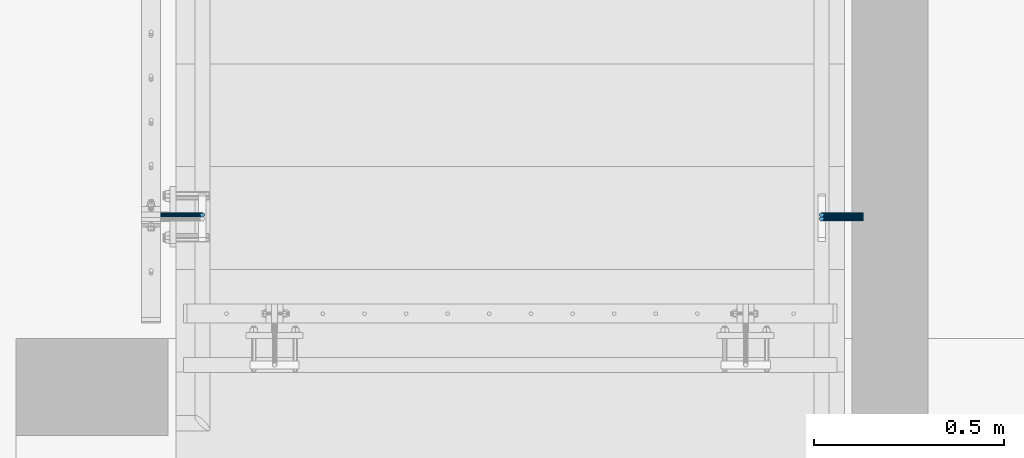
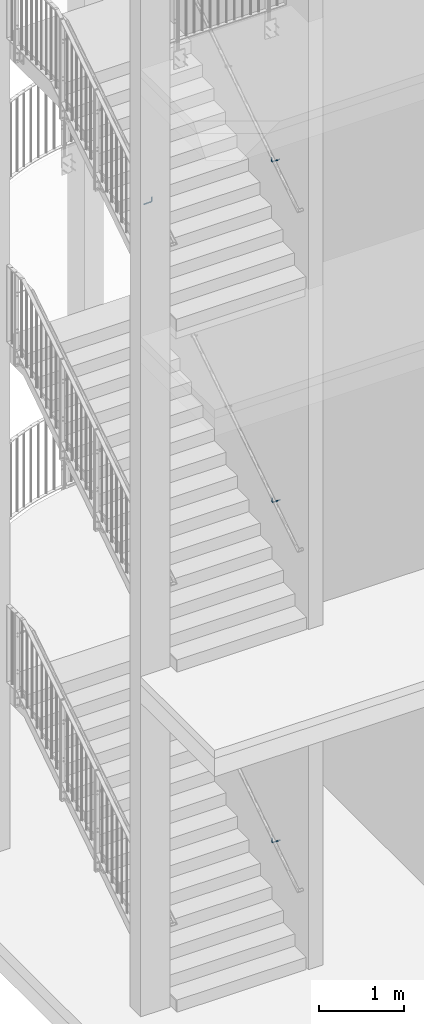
# One storey, part 129 of 296: 4 beams.
"""IFC2X3 building model written with IfcOpenShell, lengths in millimetres."""

from ifc_helpers import new_model, entity, si_unit, converted_unit, origin_with_axes, place, context, project, spatial, faceted_brep, material, element, save


model = new_model("IFC2X3")

# Units and contexts
model_context = context("Model", 3, precision=1e-09, world=origin_with_axes())
ifc_project = project(units=[si_unit("LENGTHUNIT", "METRE", prefix="MILLI"), si_unit("AREAUNIT", "SQUARE_METRE"), si_unit("VOLUMEUNIT", "CUBIC_METRE"), converted_unit("PLANEANGLEUNIT", "DEGREE", entity("IfcPlaneAngleMeasure", 0.01745329), si_unit("PLANEANGLEUNIT", "RADIAN"), dimensions=[0, 0, 0, 0, 0, 0, 0])], contexts=[model_context])

# Site, building, storey
site_placement = place(None, origin_with_axes())
site = spatial("IfcSite", under=ifc_project, at=site_placement, Name="TZD-S?d | Treppenhausgel?nder", CompositionType="ELEMENT")
building_placement = place(site_placement, origin_with_axes())
building = spatial("IfcBuilding", under=site, at=building_placement, Name="Struktur 1", CompositionType="ELEMENT")
storey_placement = place(building_placement, origin_with_axes())
storey = spatial("IfcBuildingStorey", under=building, at=storey_placement, Name="Default Storey", CompositionType="ELEMENT", Elevation=0.0)

# Beams
ifc_material = material(Name="S235JR")
beam_1_placement = place(None, origin_with_axes())
element("IfcBeam", 1, at=beam_1_placement, inside=storey, material=ifc_material, Name="-", ObjectType="-", context=model_context, shape_type="Brep", body=[
    faceted_brep([(1716.893587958, -3454.998155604, 6385.998562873), (1723.106412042, -3454.998155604, 6385.998562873), (1722.296100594, -3454.456722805, 6385.998562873), (1720.0, -3454.0, 6385.998562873), (1717.703899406, -3454.456722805, 6385.998562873), (1715.757359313, -3464.242640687, 6380.033503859), (1714.456722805, -3462.296100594, 6381.289520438), (1714.456722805, -3462.296100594, 6340.998562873), (1715.757359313, -3464.242640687, 6340.998562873), (1717.703899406, -3465.543277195, 6379.194260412), (1717.703899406, -3465.543277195, 6340.998562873), (1720.0, -3466.0, 6378.899557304), (1720.0, -3466.0, 6340.998562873), (1722.296100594, -3465.543277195, 6379.194260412), (1722.296100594, -3465.543277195, 6340.998562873), (1724.242640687, -3464.242640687, 6380.033503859), (1724.242640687, -3464.242640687, 6340.998562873), (1725.543277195, -3462.296100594, 6381.289520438), (1725.543277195, -3462.296100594, 6340.998562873), (1726.0, -3460.0, 6382.771093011), (1726.0, -3460.0, 6340.998562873), (1725.543277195, -3457.703899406, 6384.252665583), (1725.543277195, -3457.703899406, 6340.998562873), (1724.242640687, -3455.757359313, 6385.508682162), (1724.242640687, -3455.757359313, 6340.998562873), (1722.296100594, -3454.456722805, 6340.998562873), (1720.0, -3454.0, 6340.998562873), (1717.703899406, -3454.456722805, 6340.998562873), (1715.757359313, -3455.757359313, 6385.508682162), (1715.757359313, -3455.757359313, 6340.998562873), (1714.456722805, -3457.703899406, 6384.252665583), (1714.456722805, -3457.703899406, 6340.998562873), (1714.0, -3460.0, 6382.771093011), (1714.0, -3460.0, 6340.998562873), (1830.0, -3464.242640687, 6316.755922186), (1830.0, -3462.296100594, 6315.455285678), (1830.0, -3460.0, 6314.998562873), (1830.0, -3457.703899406, 6315.455285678), (1830.0, -3455.757359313, 6316.755922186), (1830.0, -3454.456722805, 6318.702462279), (1830.0, -3454.0, 6320.998562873), (1830.0, -3454.456722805, 6323.294663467), (1830.0, -3455.757359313, 6325.24120356), (1830.0, -3457.703899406, 6326.541840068), (1830.0, -3460.0, 6326.998562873), (1830.0, -3462.296100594, 6326.541840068), (1830.0, -3464.242640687, 6325.24120356), (1830.0, -3465.543277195, 6323.294663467), (1830.0, -3466.0, 6320.998562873), (1830.0, -3465.543277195, 6318.702462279), (1716.401089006, -3462.296100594, 6331.223573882), (1717.602720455, -3464.242640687, 6331.721305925), (1719.401089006, -3465.543277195, 6332.466214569), (1721.52240935, -3466.0, 6333.344894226), (1723.643729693, -3465.543277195, 6334.223573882), (1725.442098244, -3464.242640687, 6334.968482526), (1726.643729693, -3462.296100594, 6335.466214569), (1727.065686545, -3460.0, 6335.64099482), (1726.643729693, -3457.703899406, 6335.466214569), (1725.442098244, -3455.757359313, 6334.968482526), (1723.643729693, -3454.456722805, 6334.223573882), (1721.52240935, -3454.0, 6333.344894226), (1719.401089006, -3454.456722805, 6332.466214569), (1717.602720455, -3455.757359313, 6331.721305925), (1716.401089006, -3457.703899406, 6331.223573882), (1715.979132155, -3460.0, 6331.048793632), (1721.938175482, -3462.296100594, 6322.936738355), (1722.857864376, -3464.242640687, 6323.856427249), (1724.234276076, -3465.543277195, 6325.232838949), (1725.857864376, -3466.0, 6326.856427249), (1727.481452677, -3465.543277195, 6328.48001555), (1728.857864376, -3464.242640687, 6329.856427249), (1729.777553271, -3462.296100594, 6330.776116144), (1730.100505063, -3460.0, 6331.099067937), (1729.777553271, -3457.703899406, 6330.776116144), (1728.857864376, -3455.757359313, 6329.856427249), (1727.481452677, -3454.456722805, 6328.48001555), (1725.857864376, -3454.0, 6326.856427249), (1724.234276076, -3454.456722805, 6325.232838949), (1722.857864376, -3455.757359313, 6323.856427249), (1721.938175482, -3457.703899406, 6322.936738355), (1721.615223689, -3460.0, 6322.613786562), (1730.225011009, -3462.296100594, 6317.399651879), (1730.722743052, -3464.242640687, 6318.601283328), (1731.467651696, -3465.543277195, 6320.399651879), (1732.346331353, -3466.0, 6322.520972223), (1733.225011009, -3465.543277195, 6324.642292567), (1733.969919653, -3464.242640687, 6326.440661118), (1734.467651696, -3462.296100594, 6327.642292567), (1734.642431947, -3460.0, 6328.064249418), (1734.467651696, -3457.703899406, 6327.642292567), (1733.969919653, -3455.757359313, 6326.440661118), (1733.225011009, -3454.456722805, 6324.642292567), (1732.346331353, -3454.0, 6322.520972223), (1731.467651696, -3454.456722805, 6320.399651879), (1730.722743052, -3455.757359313, 6318.601283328), (1730.225011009, -3457.703899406, 6317.399651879), (1730.050230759, -3460.0, 6316.977695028), (1740.0, -3462.296100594, 6315.455285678), (1740.0, -3464.242640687, 6316.755922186), (1740.0, -3465.543277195, 6318.702462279), (1740.0, -3466.0, 6320.998562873), (1740.0, -3465.543277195, 6323.294663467), (1740.0, -3464.242640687, 6325.24120356), (1740.0, -3462.296100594, 6326.541840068), (1740.0, -3460.0, 6326.998562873), (1740.0, -3457.703899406, 6326.541840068), (1740.0, -3455.757359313, 6325.24120356), (1740.0, -3454.456722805, 6323.294663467), (1740.0, -3454.0, 6320.998562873), (1740.0, -3454.456722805, 6318.702462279), (1740.0, -3455.757359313, 6316.755922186), (1740.0, -3457.703899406, 6315.455285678), (1740.0, -3460.0, 6314.998562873)], [[[0, 1, 2, 3, 4]], [[5, 6, 7, 8]], [[9, 5, 8, 10]], [[11, 9, 10, 12]], [[13, 11, 12, 14]], [[15, 13, 14, 16]], [[17, 15, 16, 18]], [[19, 17, 18, 20]], [[21, 19, 20, 22]], [[23, 21, 22, 24]], [[1, 23, 24, 25, 2]], [[3, 2, 25, 26]], [[4, 3, 26, 27]], [[28, 0, 4, 27, 29]], [[30, 28, 29, 31]], [[32, 30, 31, 33]], [[6, 32, 33, 7]], [[17, 19, 21, 23, 1, 0, 28, 30, 32, 6, 5, 9, 11, 13, 15]], [[34, 35, 36, 37, 38, 39, 40, 41, 42, 43, 44, 45, 46, 47, 48, 49]], [[8, 7, 50, 51]], [[10, 8, 51, 52]], [[12, 10, 52, 53]], [[14, 12, 53, 54]], [[16, 14, 54, 55]], [[18, 16, 55, 56]], [[20, 18, 56, 57]], [[22, 20, 57, 58]], [[24, 22, 58, 59]], [[25, 24, 59, 60]], [[26, 25, 60, 61]], [[27, 26, 61, 62]], [[29, 27, 62, 63]], [[31, 29, 63, 64]], [[33, 31, 64, 65]], [[7, 33, 65, 50]], [[51, 50, 66, 67]], [[52, 51, 67, 68]], [[53, 52, 68, 69]], [[54, 53, 69, 70]], [[55, 54, 70, 71]], [[56, 55, 71, 72]], [[57, 56, 72, 73]], [[58, 57, 73, 74]], [[59, 58, 74, 75]], [[60, 59, 75, 76]], [[61, 60, 76, 77]], [[62, 61, 77, 78]], [[63, 62, 78, 79]], [[64, 63, 79, 80]], [[65, 64, 80, 81]], [[50, 65, 81, 66]], [[67, 66, 82, 83]], [[68, 67, 83, 84]], [[69, 68, 84, 85]], [[70, 69, 85, 86]], [[71, 70, 86, 87]], [[72, 71, 87, 88]], [[73, 72, 88, 89]], [[74, 73, 89, 90]], [[75, 74, 90, 91]], [[76, 75, 91, 92]], [[77, 76, 92, 93]], [[78, 77, 93, 94]], [[79, 78, 94, 95]], [[80, 79, 95, 96]], [[81, 80, 96, 97]], [[66, 81, 97, 82]], [[83, 82, 98, 99]], [[84, 83, 99, 100]], [[85, 84, 100, 101]], [[86, 85, 101, 102]], [[87, 86, 102, 103]], [[88, 87, 103, 104]], [[89, 88, 104, 105]], [[90, 89, 105, 106]], [[91, 90, 106, 107]], [[92, 91, 107, 108]], [[93, 92, 108, 109]], [[94, 93, 109, 110]], [[95, 94, 110, 111]], [[96, 95, 111, 112]], [[97, 96, 112, 113]], [[82, 97, 113, 98]], [[99, 98, 35, 34]], [[100, 99, 34, 49]], [[101, 100, 49, 48]], [[102, 101, 48, 47]], [[103, 102, 47, 46]], [[104, 103, 46, 45]], [[105, 104, 45, 44]], [[106, 105, 44, 43]], [[107, 106, 43, 42]], [[108, 107, 42, 41]], [[109, 108, 41, 40]], [[110, 109, 40, 39]], [[111, 110, 39, 38]], [[112, 111, 38, 37]], [[113, 112, 37, 36]], [[98, 113, 36, 35]]]),
])
beam_2_placement = place(None, origin_with_axes())
element("IfcBeam", 2, at=beam_2_placement, inside=storey, material=ifc_material, Name="-", ObjectType="-", context=model_context, shape_type="Brep", body=[
    faceted_brep([(1716.893577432, -3454.998162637, 1485.782661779), (1723.106422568, -3454.998162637, 1485.782661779), (1722.296100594, -3454.456722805, 1485.782661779), (1720.0, -3454.0, 1485.782661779), (1717.703899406, -3454.456722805, 1485.782661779), (1715.757359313, -3464.242640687, 1479.785190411), (1714.456722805, -3462.296100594, 1481.048032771), (1714.456722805, -3462.296100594, 1440.782661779), (1715.757359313, -3464.242640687, 1440.782661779), (1717.703899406, -3465.543277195, 1478.941386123), (1717.703899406, -3465.543277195, 1440.782661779), (1720.0, -3466.0, 1478.645081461), (1720.0, -3466.0, 1440.782661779), (1722.296100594, -3465.543277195, 1478.941386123), (1722.296100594, -3465.543277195, 1440.782661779), (1724.242640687, -3464.242640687, 1479.785190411), (1724.242640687, -3464.242640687, 1440.782661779), (1725.543277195, -3462.296100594, 1481.048032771), (1725.543277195, -3462.296100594, 1440.782661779), (1726.0, -3460.0, 1482.537656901), (1726.0, -3460.0, 1440.782661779), (1725.543277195, -3457.703899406, 1484.02728103), (1725.543277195, -3457.703899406, 1440.782661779), (1724.242640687, -3455.757359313, 1485.29012339), (1724.242640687, -3455.757359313, 1440.782661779), (1722.296100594, -3454.456722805, 1440.782661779), (1720.0, -3454.0, 1440.782661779), (1717.703899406, -3454.456722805, 1440.782661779), (1715.757359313, -3455.757359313, 1485.29012339), (1715.757359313, -3455.757359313, 1440.782661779), (1714.456722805, -3457.703899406, 1484.02728103), (1714.456722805, -3457.703899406, 1440.782661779), (1714.0, -3460.0, 1482.537656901), (1714.0, -3460.0, 1440.782661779), (1830.0, -3464.242640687, 1416.540021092), (1830.0, -3462.296100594, 1415.239384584), (1830.0, -3460.0, 1414.782661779), (1830.0, -3457.703899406, 1415.239384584), (1830.0, -3455.757359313, 1416.540021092), (1830.0, -3454.456722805, 1418.486561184), (1830.0, -3454.0, 1420.782661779), (1830.0, -3454.456722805, 1423.078762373), (1830.0, -3455.757359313, 1425.025302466), (1830.0, -3457.703899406, 1426.325938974), (1830.0, -3460.0, 1426.782661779), (1830.0, -3462.296100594, 1426.325938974), (1830.0, -3464.242640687, 1425.025302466), (1830.0, -3465.543277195, 1423.078762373), (1830.0, -3466.0, 1420.782661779), (1830.0, -3465.543277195, 1418.486561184), (1716.401089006, -3462.296100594, 1431.007672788), (1717.602720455, -3464.242640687, 1431.505404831), (1719.401089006, -3465.543277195, 1432.250313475), (1721.52240935, -3466.0, 1433.128993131), (1723.643729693, -3465.543277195, 1434.007672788), (1725.442098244, -3464.242640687, 1434.752581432), (1726.643729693, -3462.296100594, 1435.250313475), (1727.065686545, -3460.0, 1435.425093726), (1726.643729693, -3457.703899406, 1435.250313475), (1725.442098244, -3455.757359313, 1434.752581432), (1723.643729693, -3454.456722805, 1434.007672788), (1721.52240935, -3454.0, 1433.128993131), (1719.401089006, -3454.456722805, 1432.250313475), (1717.602720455, -3455.757359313, 1431.505404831), (1716.401089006, -3457.703899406, 1431.007672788), (1715.979132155, -3460.0, 1430.832892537), (1721.938175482, -3462.296100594, 1422.72083726), (1722.857864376, -3464.242640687, 1423.640526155), (1724.234276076, -3465.543277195, 1425.016937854), (1725.857864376, -3466.0, 1426.640526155), (1727.481452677, -3465.543277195, 1428.264114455), (1728.857864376, -3464.242640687, 1429.640526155), (1729.777553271, -3462.296100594, 1430.56021505), (1730.100505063, -3460.0, 1430.883166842), (1729.777553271, -3457.703899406, 1430.56021505), (1728.857864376, -3455.757359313, 1429.640526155), (1727.481452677, -3454.456722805, 1428.264114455), (1725.857864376, -3454.0, 1426.640526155), (1724.234276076, -3454.456722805, 1425.016937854), (1722.857864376, -3455.757359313, 1423.640526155), (1721.938175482, -3457.703899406, 1422.72083726), (1721.615223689, -3460.0, 1422.397885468), (1730.225011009, -3462.296100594, 1417.183750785), (1730.722743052, -3464.242640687, 1418.385382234), (1731.467651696, -3465.543277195, 1420.183750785), (1732.346331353, -3466.0, 1422.305071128), (1733.225011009, -3465.543277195, 1424.426391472), (1733.969919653, -3464.242640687, 1426.224760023), (1734.467651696, -3462.296100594, 1427.426391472), (1734.642431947, -3460.0, 1427.848348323), (1734.467651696, -3457.703899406, 1427.426391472), (1733.969919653, -3455.757359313, 1426.224760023), (1733.225011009, -3454.456722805, 1424.426391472), (1732.346331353, -3454.0, 1422.305071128), (1731.467651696, -3454.456722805, 1420.183750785), (1730.722743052, -3455.757359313, 1418.385382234), (1730.225011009, -3457.703899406, 1417.183750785), (1730.050230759, -3460.0, 1416.761793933), (1740.0, -3462.296100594, 1415.239384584), (1740.0, -3464.242640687, 1416.540021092), (1740.0, -3465.543277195, 1418.486561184), (1740.0, -3466.0, 1420.782661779), (1740.0, -3465.543277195, 1423.078762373), (1740.0, -3464.242640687, 1425.025302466), (1740.0, -3462.296100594, 1426.325938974), (1740.0, -3460.0, 1426.782661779), (1740.0, -3457.703899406, 1426.325938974), (1740.0, -3455.757359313, 1425.025302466), (1740.0, -3454.456722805, 1423.078762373), (1740.0, -3454.0, 1420.782661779), (1740.0, -3454.456722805, 1418.486561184), (1740.0, -3455.757359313, 1416.540021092), (1740.0, -3457.703899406, 1415.239384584), (1740.0, -3460.0, 1414.782661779)], [[[0, 1, 2, 3, 4]], [[5, 6, 7, 8]], [[9, 5, 8, 10]], [[11, 9, 10, 12]], [[13, 11, 12, 14]], [[15, 13, 14, 16]], [[17, 15, 16, 18]], [[19, 17, 18, 20]], [[21, 19, 20, 22]], [[23, 21, 22, 24]], [[1, 23, 24, 25, 2]], [[3, 2, 25, 26]], [[4, 3, 26, 27]], [[28, 0, 4, 27, 29]], [[30, 28, 29, 31]], [[32, 30, 31, 33]], [[6, 32, 33, 7]], [[17, 19, 21, 23, 1, 0, 28, 30, 32, 6, 5, 9, 11, 13, 15]], [[34, 35, 36, 37, 38, 39, 40, 41, 42, 43, 44, 45, 46, 47, 48, 49]], [[8, 7, 50, 51]], [[10, 8, 51, 52]], [[12, 10, 52, 53]], [[14, 12, 53, 54]], [[16, 14, 54, 55]], [[18, 16, 55, 56]], [[20, 18, 56, 57]], [[22, 20, 57, 58]], [[24, 22, 58, 59]], [[25, 24, 59, 60]], [[26, 25, 60, 61]], [[27, 26, 61, 62]], [[29, 27, 62, 63]], [[31, 29, 63, 64]], [[33, 31, 64, 65]], [[7, 33, 65, 50]], [[51, 50, 66, 67]], [[52, 51, 67, 68]], [[53, 52, 68, 69]], [[54, 53, 69, 70]], [[55, 54, 70, 71]], [[56, 55, 71, 72]], [[57, 56, 72, 73]], [[58, 57, 73, 74]], [[59, 58, 74, 75]], [[60, 59, 75, 76]], [[61, 60, 76, 77]], [[62, 61, 77, 78]], [[63, 62, 78, 79]], [[64, 63, 79, 80]], [[65, 64, 80, 81]], [[50, 65, 81, 66]], [[67, 66, 82, 83]], [[68, 67, 83, 84]], [[69, 68, 84, 85]], [[70, 69, 85, 86]], [[71, 70, 86, 87]], [[72, 71, 87, 88]], [[73, 72, 88, 89]], [[74, 73, 89, 90]], [[75, 74, 90, 91]], [[76, 75, 91, 92]], [[77, 76, 92, 93]], [[78, 77, 93, 94]], [[79, 78, 94, 95]], [[80, 79, 95, 96]], [[81, 80, 96, 97]], [[66, 81, 97, 82]], [[83, 82, 98, 99]], [[84, 83, 99, 100]], [[85, 84, 100, 101]], [[86, 85, 101, 102]], [[87, 86, 102, 103]], [[88, 87, 103, 104]], [[89, 88, 104, 105]], [[90, 89, 105, 106]], [[91, 90, 106, 107]], [[92, 91, 107, 108]], [[93, 92, 108, 109]], [[94, 93, 109, 110]], [[95, 94, 110, 111]], [[96, 95, 111, 112]], [[97, 96, 112, 113]], [[82, 97, 113, 98]], [[99, 98, 35, 34]], [[100, 99, 34, 49]], [[101, 100, 49, 48]], [[102, 101, 48, 47]], [[103, 102, 47, 46]], [[104, 103, 46, 45]], [[105, 104, 45, 44]], [[106, 105, 44, 43]], [[107, 106, 43, 42]], [[108, 107, 42, 41]], [[109, 108, 41, 40]], [[110, 109, 40, 39]], [[111, 110, 39, 38]], [[112, 111, 38, 37]], [[113, 112, 37, 36]], [[98, 113, 36, 35]]]),
])
beam_3_placement = place(None, origin_with_axes())
element("IfcBeam", 3, at=beam_3_placement, inside=storey, material=ifc_material, Name="-", ObjectType="-", context=model_context, shape_type="Brep", body=[
    faceted_brep([(1716.893581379, -3444.99816, 11284.40396578), (1723.106418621, -3444.99816, 11284.40396578), (1722.296100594, -3444.456722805, 11284.40396578), (1720.0, -3444.0, 11284.40396578), (1717.703899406, -3444.456722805, 11284.40396578), (1715.757359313, -3454.242640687, 11278.418696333), (1714.456722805, -3452.296100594, 11279.678969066), (1714.456722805, -3452.296100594, 11239.40396578), (1715.757359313, -3454.242640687, 11239.40396578), (1717.703899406, -3455.543277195, 11277.576609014), (1717.703899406, -3455.543277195, 11239.40396578), (1720.0, -3456.0, 11277.280907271), (1720.0, -3456.0, 11239.40396578), (1722.296100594, -3455.543277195, 11277.576609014), (1722.296100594, -3455.543277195, 11239.40396578), (1724.242640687, -3454.242640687, 11278.418696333), (1724.242640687, -3454.242640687, 11239.40396578), (1725.543277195, -3452.296100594, 11279.678969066), (1725.543277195, -3452.296100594, 11239.40396578), (1726.0, -3450.0, 11281.165562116), (1726.0, -3450.0, 11239.40396578), (1725.543277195, -3447.703899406, 11282.652155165), (1725.543277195, -3447.703899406, 11239.40396578), (1724.242640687, -3445.757359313, 11283.912427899), (1724.242640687, -3445.757359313, 11239.40396578), (1722.296100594, -3444.456722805, 11239.40396578), (1720.0, -3444.0, 11239.40396578), (1717.703899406, -3444.456722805, 11239.40396578), (1715.757359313, -3445.757359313, 11283.912427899), (1715.757359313, -3445.757359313, 11239.40396578), (1714.456722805, -3447.703899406, 11282.652155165), (1714.456722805, -3447.703899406, 11239.40396578), (1714.0, -3450.0, 11281.165562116), (1714.0, -3450.0, 11239.40396578), (1830.0, -3454.242640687, 11215.161325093), (1830.0, -3452.296100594, 11213.860688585), (1830.0, -3450.0, 11213.40396578), (1830.0, -3447.703899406, 11213.860688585), (1830.0, -3445.757359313, 11215.161325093), (1830.0, -3444.456722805, 11217.107865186), (1830.0, -3444.0, 11219.40396578), (1830.0, -3444.456722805, 11221.700066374), (1830.0, -3445.757359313, 11223.646606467), (1830.0, -3447.703899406, 11224.947242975), (1830.0, -3450.0, 11225.40396578), (1830.0, -3452.296100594, 11224.947242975), (1830.0, -3454.242640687, 11223.646606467), (1830.0, -3455.543277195, 11221.700066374), (1830.0, -3456.0, 11219.40396578), (1830.0, -3455.543277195, 11217.107865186), (1716.401089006, -3452.296100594, 11229.628976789), (1717.602720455, -3454.242640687, 11230.126708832), (1719.401089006, -3455.543277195, 11230.871617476), (1721.52240935, -3456.0, 11231.750297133), (1723.643729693, -3455.543277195, 11232.628976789), (1725.442098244, -3454.242640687, 11233.373885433), (1726.643729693, -3452.296100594, 11233.871617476), (1727.065686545, -3450.0, 11234.046397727), (1726.643729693, -3447.703899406, 11233.871617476), (1725.442098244, -3445.757359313, 11233.373885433), (1723.643729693, -3444.456722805, 11232.628976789), (1721.52240935, -3444.0, 11231.750297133), (1719.401089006, -3444.456722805, 11230.871617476), (1717.602720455, -3445.757359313, 11230.126708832), (1716.401089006, -3447.703899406, 11229.628976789), (1715.979132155, -3450.0, 11229.454196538), (1721.938175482, -3452.296100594, 11221.342141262), (1722.857864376, -3454.242640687, 11222.261830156), (1724.234276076, -3455.543277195, 11223.638241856), (1725.857864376, -3456.0, 11225.261830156), (1727.481452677, -3455.543277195, 11226.885418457), (1728.857864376, -3454.242640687, 11228.261830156), (1729.777553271, -3452.296100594, 11229.181519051), (1730.100505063, -3450.0, 11229.504470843), (1729.777553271, -3447.703899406, 11229.181519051), (1728.857864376, -3445.757359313, 11228.261830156), (1727.481452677, -3444.456722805, 11226.885418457), (1725.857864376, -3444.0, 11225.261830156), (1724.234276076, -3444.456722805, 11223.638241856), (1722.857864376, -3445.757359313, 11222.261830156), (1721.938175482, -3447.703899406, 11221.342141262), (1721.615223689, -3450.0, 11221.019189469), (1730.225011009, -3452.296100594, 11215.805054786), (1730.722743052, -3454.242640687, 11217.006686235), (1731.467651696, -3455.543277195, 11218.805054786), (1732.346331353, -3456.0, 11220.92637513), (1733.225011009, -3455.543277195, 11223.047695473), (1733.969919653, -3454.242640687, 11224.846064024), (1734.467651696, -3452.296100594, 11226.047695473), (1734.642431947, -3450.0, 11226.469652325), (1734.467651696, -3447.703899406, 11226.047695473), (1733.969919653, -3445.757359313, 11224.846064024), (1733.225011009, -3444.456722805, 11223.047695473), (1732.346331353, -3444.0, 11220.92637513), (1731.467651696, -3444.456722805, 11218.805054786), (1730.722743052, -3445.757359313, 11217.006686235), (1730.225011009, -3447.703899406, 11215.805054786), (1730.050230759, -3450.0, 11215.383097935), (1740.0, -3452.296100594, 11213.860688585), (1740.0, -3454.242640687, 11215.161325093), (1740.0, -3455.543277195, 11217.107865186), (1740.0, -3456.0, 11219.40396578), (1740.0, -3455.543277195, 11221.700066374), (1740.0, -3454.242640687, 11223.646606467), (1740.0, -3452.296100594, 11224.947242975), (1740.0, -3450.0, 11225.40396578), (1740.0, -3447.703899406, 11224.947242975), (1740.0, -3445.757359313, 11223.646606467), (1740.0, -3444.456722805, 11221.700066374), (1740.0, -3444.0, 11219.40396578), (1740.0, -3444.456722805, 11217.107865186), (1740.0, -3445.757359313, 11215.161325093), (1740.0, -3447.703899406, 11213.860688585), (1740.0, -3450.0, 11213.40396578)], [[[0, 1, 2, 3, 4]], [[5, 6, 7, 8]], [[9, 5, 8, 10]], [[11, 9, 10, 12]], [[13, 11, 12, 14]], [[15, 13, 14, 16]], [[17, 15, 16, 18]], [[19, 17, 18, 20]], [[21, 19, 20, 22]], [[23, 21, 22, 24]], [[1, 23, 24, 25, 2]], [[3, 2, 25, 26]], [[4, 3, 26, 27]], [[28, 0, 4, 27, 29]], [[30, 28, 29, 31]], [[32, 30, 31, 33]], [[6, 32, 33, 7]], [[17, 19, 21, 23, 1, 0, 28, 30, 32, 6, 5, 9, 11, 13, 15]], [[34, 35, 36, 37, 38, 39, 40, 41, 42, 43, 44, 45, 46, 47, 48, 49]], [[8, 7, 50, 51]], [[10, 8, 51, 52]], [[12, 10, 52, 53]], [[14, 12, 53, 54]], [[16, 14, 54, 55]], [[18, 16, 55, 56]], [[20, 18, 56, 57]], [[22, 20, 57, 58]], [[24, 22, 58, 59]], [[25, 24, 59, 60]], [[26, 25, 60, 61]], [[27, 26, 61, 62]], [[29, 27, 62, 63]], [[31, 29, 63, 64]], [[33, 31, 64, 65]], [[7, 33, 65, 50]], [[51, 50, 66, 67]], [[52, 51, 67, 68]], [[53, 52, 68, 69]], [[54, 53, 69, 70]], [[55, 54, 70, 71]], [[56, 55, 71, 72]], [[57, 56, 72, 73]], [[58, 57, 73, 74]], [[59, 58, 74, 75]], [[60, 59, 75, 76]], [[61, 60, 76, 77]], [[62, 61, 77, 78]], [[63, 62, 78, 79]], [[64, 63, 79, 80]], [[65, 64, 80, 81]], [[50, 65, 81, 66]], [[67, 66, 82, 83]], [[68, 67, 83, 84]], [[69, 68, 84, 85]], [[70, 69, 85, 86]], [[71, 70, 86, 87]], [[72, 71, 87, 88]], [[73, 72, 88, 89]], [[74, 73, 89, 90]], [[75, 74, 90, 91]], [[76, 75, 91, 92]], [[77, 76, 92, 93]], [[78, 77, 93, 94]], [[79, 78, 94, 95]], [[80, 79, 95, 96]], [[81, 80, 96, 97]], [[66, 81, 97, 82]], [[83, 82, 98, 99]], [[84, 83, 99, 100]], [[85, 84, 100, 101]], [[86, 85, 101, 102]], [[87, 86, 102, 103]], [[88, 87, 103, 104]], [[89, 88, 104, 105]], [[90, 89, 105, 106]], [[91, 90, 106, 107]], [[92, 91, 107, 108]], [[93, 92, 108, 109]], [[94, 93, 109, 110]], [[95, 94, 110, 111]], [[96, 95, 111, 112]], [[97, 96, 112, 113]], [[82, 97, 113, 98]], [[99, 98, 35, 34]], [[100, 99, 34, 49]], [[101, 100, 49, 48]], [[102, 101, 48, 47]], [[103, 102, 47, 46]], [[104, 103, 46, 45]], [[105, 104, 45, 44]], [[106, 105, 44, 43]], [[107, 106, 43, 42]], [[108, 107, 42, 41]], [[109, 108, 41, 40]], [[110, 109, 40, 39]], [[111, 110, 39, 38]], [[112, 111, 38, 37]], [[113, 112, 37, 36]], [[98, 113, 36, 35]]]),
])
beam_4_placement = place(None, origin_with_axes())
element("IfcBeam", 4, at=beam_4_placement, inside=storey, material=ifc_material, Name="-", ObjectType="-", context=model_context, shape_type="Brep", body=[
    faceted_brep([(86.893581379, -3444.99816, 11284.40396578), (93.106418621, -3444.99816, 11284.40396578), (92.296100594, -3444.456722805, 11284.40396578), (90.0, -3444.0, 11284.40396578), (87.703899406, -3444.456722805, 11284.40396578), (95.543277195, -3452.296100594, 11279.678969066), (94.242640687, -3454.242640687, 11278.418696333), (94.242640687, -3454.242640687, 11239.40396578), (95.543277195, -3452.296100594, 11239.40396578), (92.296100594, -3455.543277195, 11277.576609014), (92.296100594, -3455.543277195, 11239.40396578), (90.0, -3456.0, 11277.280907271), (90.0, -3456.0, 11239.40396578), (87.703899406, -3455.543277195, 11277.576609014), (87.703899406, -3455.543277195, 11239.40396578), (85.757359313, -3454.242640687, 11278.418696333), (85.757359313, -3454.242640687, 11239.40396578), (84.456722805, -3452.296100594, 11279.678969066), (84.456722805, -3452.296100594, 11239.40396578), (84.0, -3450.0, 11281.165562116), (84.0, -3450.0, 11239.40396578), (84.456722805, -3447.703899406, 11282.652155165), (84.456722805, -3447.703899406, 11239.40396578), (85.757359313, -3445.757359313, 11283.912427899), (85.757359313, -3445.757359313, 11239.40396578), (87.703899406, -3444.456722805, 11239.40396578), (90.0, -3444.0, 11239.40396578), (92.296100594, -3444.456722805, 11239.40396578), (94.242640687, -3445.757359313, 11283.912427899), (94.242640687, -3445.757359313, 11239.40396578), (95.543277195, -3447.703899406, 11282.652155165), (95.543277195, -3447.703899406, 11239.40396578), (96.0, -3450.0, 11281.165562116), (96.0, -3450.0, 11239.40396578), (-20.0, -3452.296100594, 11213.860688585), (-20.0, -3454.242640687, 11215.161325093), (-20.0, -3455.543277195, 11217.107865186), (-20.0, -3456.0, 11219.40396578), (-20.0, -3455.543277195, 11221.700066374), (-20.0, -3454.242640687, 11223.646606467), (-20.0, -3452.296100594, 11224.947242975), (-20.0, -3450.0, 11225.40396578), (-20.0, -3447.703899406, 11224.947242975), (-20.0, -3445.757359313, 11223.646606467), (-20.0, -3444.456722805, 11221.700066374), (-20.0, -3444.0, 11219.40396578), (-20.0, -3444.456722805, 11217.107865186), (-20.0, -3445.757359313, 11215.161325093), (-20.0, -3447.703899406, 11213.860688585), (-20.0, -3450.0, 11213.40396578), (92.397279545, -3454.242640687, 11230.126708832), (93.598910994, -3452.296100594, 11229.628976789), (90.598910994, -3455.543277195, 11230.871617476), (88.47759065, -3456.0, 11231.750297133), (86.356270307, -3455.543277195, 11232.628976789), (84.557901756, -3454.242640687, 11233.373885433), (83.356270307, -3452.296100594, 11233.871617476), (82.934313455, -3450.0, 11234.046397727), (83.356270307, -3447.703899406, 11233.871617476), (84.557901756, -3445.757359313, 11233.373885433), (86.356270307, -3444.456722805, 11232.628976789), (88.47759065, -3444.0, 11231.750297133), (90.598910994, -3444.456722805, 11230.871617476), (92.397279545, -3445.757359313, 11230.126708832), (93.598910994, -3447.703899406, 11229.628976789), (94.020867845, -3450.0, 11229.454196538), (87.142135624, -3454.242640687, 11222.261830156), (88.061824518, -3452.296100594, 11221.342141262), (85.765723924, -3455.543277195, 11223.638241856), (84.142135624, -3456.0, 11225.261830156), (82.518547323, -3455.543277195, 11226.885418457), (81.142135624, -3454.242640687, 11228.261830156), (80.222446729, -3452.296100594, 11229.181519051), (79.899494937, -3450.0, 11229.504470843), (80.222446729, -3447.703899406, 11229.181519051), (81.142135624, -3445.757359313, 11228.261830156), (82.518547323, -3444.456722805, 11226.885418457), (84.142135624, -3444.0, 11225.261830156), (85.765723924, -3444.456722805, 11223.638241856), (87.142135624, -3445.757359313, 11222.261830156), (88.061824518, -3447.703899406, 11221.342141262), (88.384776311, -3450.0, 11221.019189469), (79.277256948, -3454.242640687, 11217.006686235), (79.774988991, -3452.296100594, 11215.805054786), (78.532348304, -3455.543277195, 11218.805054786), (77.653668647, -3456.0, 11220.92637513), (76.774988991, -3455.543277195, 11223.047695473), (76.030080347, -3454.242640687, 11224.846064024), (75.532348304, -3452.296100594, 11226.047695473), (75.357568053, -3450.0, 11226.469652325), (75.532348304, -3447.703899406, 11226.047695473), (76.030080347, -3445.757359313, 11224.846064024), (76.774988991, -3444.456722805, 11223.047695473), (77.653668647, -3444.0, 11220.92637513), (78.532348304, -3444.456722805, 11218.805054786), (79.277256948, -3445.757359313, 11217.006686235), (79.774988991, -3447.703899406, 11215.805054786), (79.949769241, -3450.0, 11215.383097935), (70.0, -3454.242640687, 11215.161325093), (70.0, -3452.296100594, 11213.860688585), (70.0, -3455.543277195, 11217.107865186), (70.0, -3456.0, 11219.40396578), (70.0, -3455.543277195, 11221.700066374), (70.0, -3454.242640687, 11223.646606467), (70.0, -3452.296100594, 11224.947242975), (70.0, -3450.0, 11225.40396578), (70.0, -3447.703899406, 11224.947242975), (70.0, -3445.757359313, 11223.646606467), (70.0, -3444.456722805, 11221.700066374), (70.0, -3444.0, 11219.40396578), (70.0, -3444.456722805, 11217.107865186), (70.0, -3445.757359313, 11215.161325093), (70.0, -3447.703899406, 11213.860688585), (70.0, -3450.0, 11213.40396578)], [[[0, 1, 2, 3, 4]], [[5, 6, 7, 8]], [[6, 9, 10, 7]], [[9, 11, 12, 10]], [[11, 13, 14, 12]], [[13, 15, 16, 14]], [[15, 17, 18, 16]], [[17, 19, 20, 18]], [[19, 21, 22, 20]], [[21, 23, 24, 22]], [[23, 0, 4, 25, 24]], [[4, 3, 26, 25]], [[3, 2, 27, 26]], [[1, 28, 29, 27, 2]], [[28, 30, 31, 29]], [[30, 32, 33, 31]], [[32, 5, 8, 33]], [[19, 17, 15, 13, 11, 9, 6, 5, 32, 30, 28, 1, 0, 23, 21]], [[34, 35, 36, 37, 38, 39, 40, 41, 42, 43, 44, 45, 46, 47, 48, 49]], [[8, 7, 50, 51]], [[7, 10, 52, 50]], [[10, 12, 53, 52]], [[12, 14, 54, 53]], [[14, 16, 55, 54]], [[16, 18, 56, 55]], [[18, 20, 57, 56]], [[20, 22, 58, 57]], [[22, 24, 59, 58]], [[24, 25, 60, 59]], [[25, 26, 61, 60]], [[26, 27, 62, 61]], [[27, 29, 63, 62]], [[29, 31, 64, 63]], [[31, 33, 65, 64]], [[33, 8, 51, 65]], [[51, 50, 66, 67]], [[50, 52, 68, 66]], [[52, 53, 69, 68]], [[53, 54, 70, 69]], [[54, 55, 71, 70]], [[55, 56, 72, 71]], [[56, 57, 73, 72]], [[57, 58, 74, 73]], [[58, 59, 75, 74]], [[59, 60, 76, 75]], [[60, 61, 77, 76]], [[61, 62, 78, 77]], [[62, 63, 79, 78]], [[63, 64, 80, 79]], [[64, 65, 81, 80]], [[65, 51, 67, 81]], [[67, 66, 82, 83]], [[66, 68, 84, 82]], [[68, 69, 85, 84]], [[69, 70, 86, 85]], [[70, 71, 87, 86]], [[71, 72, 88, 87]], [[72, 73, 89, 88]], [[73, 74, 90, 89]], [[74, 75, 91, 90]], [[75, 76, 92, 91]], [[76, 77, 93, 92]], [[77, 78, 94, 93]], [[78, 79, 95, 94]], [[79, 80, 96, 95]], [[80, 81, 97, 96]], [[81, 67, 83, 97]], [[83, 82, 98, 99]], [[82, 84, 100, 98]], [[84, 85, 101, 100]], [[85, 86, 102, 101]], [[86, 87, 103, 102]], [[87, 88, 104, 103]], [[88, 89, 105, 104]], [[89, 90, 106, 105]], [[90, 91, 107, 106]], [[91, 92, 108, 107]], [[92, 93, 109, 108]], [[93, 94, 110, 109]], [[94, 95, 111, 110]], [[95, 96, 112, 111]], [[96, 97, 113, 112]], [[97, 83, 99, 113]], [[99, 98, 35, 34]], [[98, 100, 36, 35]], [[100, 101, 37, 36]], [[101, 102, 38, 37]], [[102, 103, 39, 38]], [[103, 104, 40, 39]], [[104, 105, 41, 40]], [[105, 106, 42, 41]], [[106, 107, 43, 42]], [[107, 108, 44, 43]], [[108, 109, 45, 44]], [[109, 110, 46, 45]], [[110, 111, 47, 46]], [[111, 112, 48, 47]], [[112, 113, 49, 48]], [[113, 99, 34, 49]]]),
])

save(model, "model.ifc")
